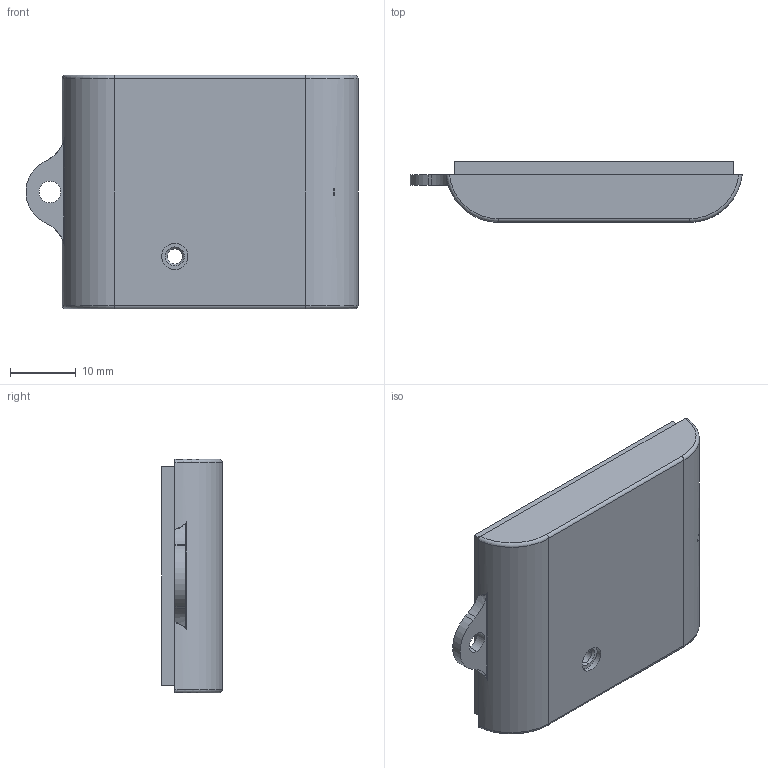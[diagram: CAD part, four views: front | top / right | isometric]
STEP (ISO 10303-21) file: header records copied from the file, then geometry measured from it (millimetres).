
FILE_DESCRIPTION (( 'STEP AP214' ), '1' );
FILE_NAME ('Cos PP46.STEP', '2016-10-09T09:16:06', ( 'aaa' ), ( '' ), 'SwSTEP 2.0', 'SolidWorks 2013', '' );
FILE_SCHEMA (( 'AUTOMOTIVE_DESIGN' ));
Length unit declared in the file: millimetre
Products named in the file (1): Cos PP46
Bounding box: 50.48 x 9.2 x 35.5 mm (x, y, z)
Volume: 3940.5 mm3; surface area: 5528.7 mm2
Topology: 1 solids, 1 shells, 79 faces, 209 edges, 138 vertices
Faces by surface type: plane 51, cylinder 18, cone 4, torus 4, bspline 2
Entity records: 2579 total; most frequent: CARTESIAN_POINT 559, ORIENTED_EDGE 418, DIRECTION 401, EDGE_CURVE 209, VECTOR 145, LINE 145, VERTEX_POINT 138, AXIS2_PLACEMENT_3D 128
